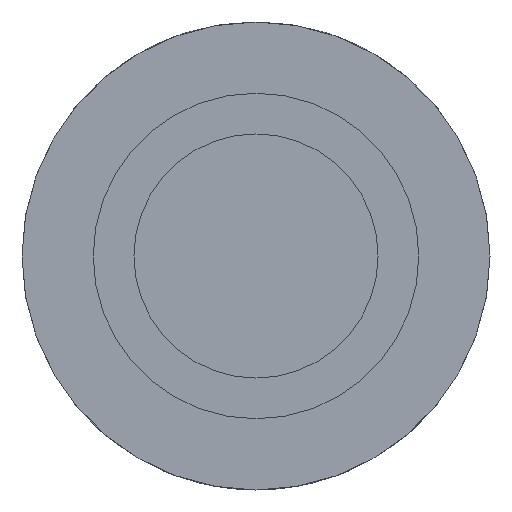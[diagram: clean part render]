
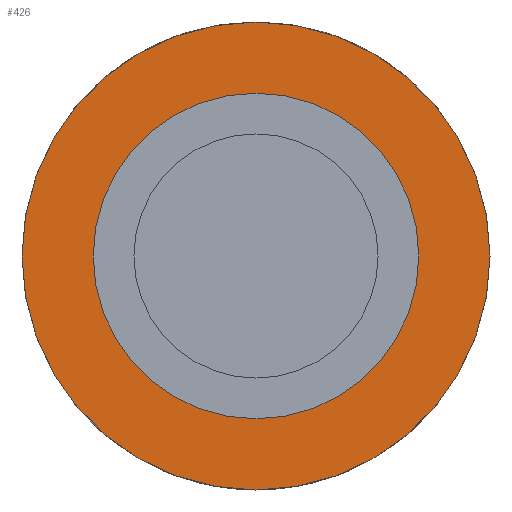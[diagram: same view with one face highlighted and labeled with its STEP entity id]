
A CAD part, left-side view. The second image highlights one B-rep face of the part: STEP entity #426.
In plain terms, the highlighted planar face has unit normal (-1, 0, 0).
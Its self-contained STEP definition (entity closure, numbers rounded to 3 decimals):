
#395=CARTESIAN_POINT('',(37.0,0.0,5.75));
#396=VERTEX_POINT('',#395);
#397=CARTESIAN_POINT('',(37.,0.0,0.));
#398=DIRECTION('',(-1.0,0.0,0.0));
#399=DIRECTION('',(0.0,0.0,1.0));
#400=AXIS2_PLACEMENT_3D('',#397,#398,#399);
#401=CIRCLE('',#400,5.75);
#402=EDGE_CURVE('',#396,#396,#401,.T.);
#407=CARTESIAN_POINT('',(37.0,0.0,4.875));
#408=DIRECTION('',(-1.0,0.0,0.0));
#409=DIRECTION('',(0.0,0.0,1.0));
#410=AXIS2_PLACEMENT_3D('',#407,#408,#409);
#411=PLANE('',#410);
#412=ORIENTED_EDGE('',*,*,#402,.T.);
#413=EDGE_LOOP('',(#412));
#414=FACE_OUTER_BOUND('',#413,.T.);
#415=CARTESIAN_POINT('',(37.0,0.0,4.));
#416=VERTEX_POINT('',#415);
#417=CARTESIAN_POINT('',(37.,0.0,0.));
#418=DIRECTION('',(-1.0,0.0,0.0));
#419=DIRECTION('',(0.0,0.0,1.0));
#420=AXIS2_PLACEMENT_3D('',#417,#418,#419);
#421=CIRCLE('',#420,4.);
#422=EDGE_CURVE('',#416,#416,#421,.T.);
#423=ORIENTED_EDGE('',*,*,#422,.F.);
#424=EDGE_LOOP('',(#423));
#425=FACE_BOUND('',#424,.T.);
#426=ADVANCED_FACE('',(#414,#425),#411,.T.);
